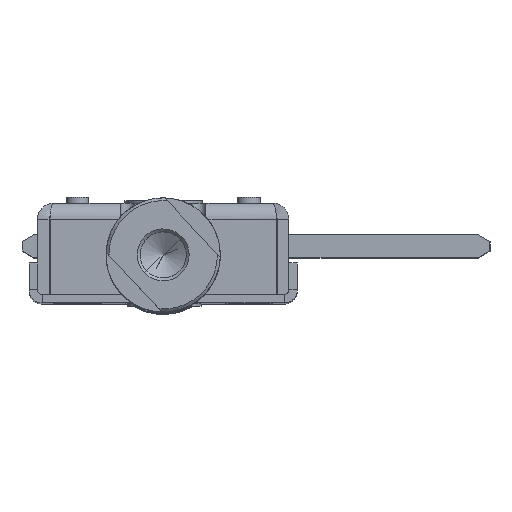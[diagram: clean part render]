
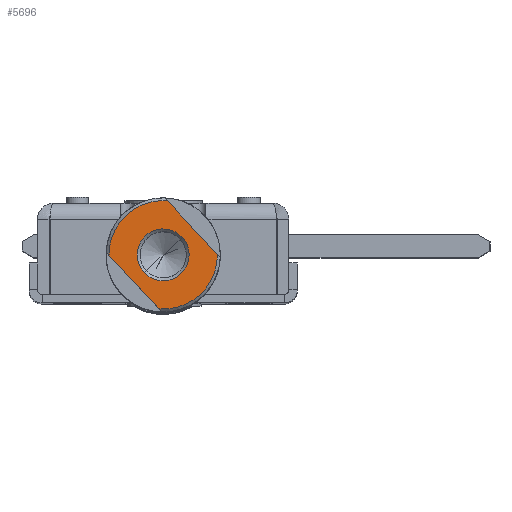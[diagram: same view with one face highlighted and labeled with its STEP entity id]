
A CAD part, top view. The second image highlights one B-rep face of the part: STEP entity #5696.
In plain terms, the highlighted planar face has unit normal (0, 0, 1).
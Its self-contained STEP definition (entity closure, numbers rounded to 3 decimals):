
#114 = FACE_BOUND ( 'NONE', #5727, .T. ) ;
#328 = DIRECTION ( 'NONE',  ( 1., 0., 0. ) ) ;
#685 = FACE_OUTER_BOUND ( 'NONE', #11484, .T. ) ;
#1510 = VERTEX_POINT ( 'NONE', #8899 ) ;
#1582 = VERTEX_POINT ( 'NONE', #7191 ) ;
#1600 = DIRECTION ( 'NONE',  ( 1., 0., 0. ) ) ;
#1750 = LINE ( 'NONE', #15621, #5877 ) ;
#2210 = AXIS2_PLACEMENT_3D ( 'NONE', #15580, #4956, #17376 ) ;
#2905 = VERTEX_POINT ( 'NONE', #14724 ) ;
#4538 = CARTESIAN_POINT ( 'NONE',  ( -7., -6.423, 16. ) ) ;
#4556 = ORIENTED_EDGE ( 'NONE', *, *, #11795, .T. ) ;
#4557 = PLANE ( 'NONE',  #17517 ) ;
#4956 = DIRECTION ( 'NONE',  ( 0., 0., 1. ) ) ;
#5454 = CIRCLE ( 'NONE', #21947, 4.55 ) ;
#5696 = ADVANCED_FACE ( 'NONE', ( #114, #685 ), #4557, .T. ) ;
#5727 = EDGE_LOOP ( 'NONE', ( #21509, #16468 ) ) ;
#5877 = VECTOR ( 'NONE', #22817, 1000. ) ;
#6616 = CARTESIAN_POINT ( 'NONE',  ( 7., 6.423, 16. ) ) ;
#7191 = CARTESIAN_POINT ( 'NONE',  ( 4.55, 0., 16. ) ) ;
#7517 = CIRCLE ( 'NONE', #2210, 9.5 ) ;
#7588 = EDGE_CURVE ( 'NONE', #11441, #21039, #7517, .T. ) ;
#7778 = CARTESIAN_POINT ( 'NONE',  ( 0., 0., 16. ) ) ;
#8092 = DIRECTION ( 'NONE',  ( 0., 0., 1. ) ) ;
#8899 = CARTESIAN_POINT ( 'NONE',  ( -4.55, 0., 16. ) ) ;
#8929 = DIRECTION ( 'NONE',  ( 0., 1., 0. ) ) ;
#9595 = DIRECTION ( 'NONE',  ( 1., 0., 0. ) ) ;
#10238 = ORIENTED_EDGE ( 'NONE', *, *, #7588, .T. ) ;
#10442 = LINE ( 'NONE', #19616, #19928 ) ;
#10932 = DIRECTION ( 'NONE',  ( 0., 0., -1. ) ) ;
#11441 = VERTEX_POINT ( 'NONE', #6616 ) ;
#11484 = EDGE_LOOP ( 'NONE', ( #19660, #4556, #17105, #10238 ) ) ;
#11604 = AXIS2_PLACEMENT_3D ( 'NONE', #7778, #20270, #9595 ) ;
#11795 = EDGE_CURVE ( 'NONE', #17153, #2905, #22768, .T. ) ;
#12193 = DIRECTION ( 'NONE',  ( 0., 0., -1. ) ) ;
#12362 = EDGE_CURVE ( 'NONE', #1582, #1510, #5454, .T. ) ;
#12499 = EDGE_CURVE ( 'NONE', #2905, #11441, #10442, .T. ) ;
#14053 = CARTESIAN_POINT ( 'NONE',  ( -7., 6.423, 16. ) ) ;
#14724 = CARTESIAN_POINT ( 'NONE',  ( 7., -6.423, 16. ) ) ;
#15580 = CARTESIAN_POINT ( 'NONE',  ( 0., 0., 16. ) ) ;
#15621 = CARTESIAN_POINT ( 'NONE',  ( -7., -10., 16. ) ) ;
#15704 = AXIS2_PLACEMENT_3D ( 'NONE', #21634, #10932, #328 ) ;
#16468 = ORIENTED_EDGE ( 'NONE', *, *, #22366, .T. ) ;
#16883 = CIRCLE ( 'NONE', #15704, 4.55 ) ;
#17105 = ORIENTED_EDGE ( 'NONE', *, *, #12499, .T. ) ;
#17153 = VERTEX_POINT ( 'NONE', #4538 ) ;
#17376 = DIRECTION ( 'NONE',  ( 1., 0., 0. ) ) ;
#17431 = EDGE_CURVE ( 'NONE', #17153, #21039, #1750, .T. ) ;
#17517 = AXIS2_PLACEMENT_3D ( 'NONE', #18787, #8092, #20577 ) ;
#18787 = CARTESIAN_POINT ( 'NONE',  ( 0., 0., 16. ) ) ;
#19616 = CARTESIAN_POINT ( 'NONE',  ( 7., -10., 16. ) ) ;
#19660 = ORIENTED_EDGE ( 'NONE', *, *, #17431, .F. ) ;
#19928 = VECTOR ( 'NONE', #8929, 1000. ) ;
#20270 = DIRECTION ( 'NONE',  ( 0., 0., 1. ) ) ;
#20577 = DIRECTION ( 'NONE',  ( 1., 0., 0. ) ) ;
#21039 = VERTEX_POINT ( 'NONE', #14053 ) ;
#21509 = ORIENTED_EDGE ( 'NONE', *, *, #12362, .T. ) ;
#21634 = CARTESIAN_POINT ( 'NONE',  ( 0., 0., 16. ) ) ;
#21947 = AXIS2_PLACEMENT_3D ( 'NONE', #22909, #12193, #1600 ) ;
#22366 = EDGE_CURVE ( 'NONE', #1510, #1582, #16883, .T. ) ;
#22768 = CIRCLE ( 'NONE', #11604, 9.5 ) ;
#22817 = DIRECTION ( 'NONE',  ( 0., 1., 0. ) ) ;
#22909 = CARTESIAN_POINT ( 'NONE',  ( 0., 0., 16. ) ) ;
